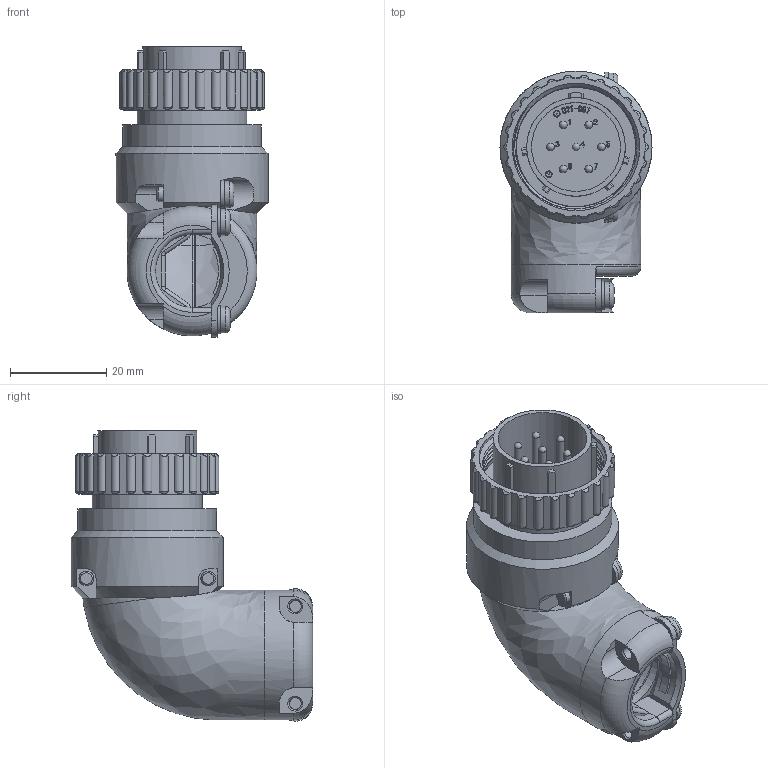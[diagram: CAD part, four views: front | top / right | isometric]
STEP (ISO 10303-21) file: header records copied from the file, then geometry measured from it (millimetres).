
FILE_DESCRIPTION (( 'STEP AP203' ), '1' );
FILE_NAME ('JMLP2107MM-D.STEP', '2021-07-07T03:59:40', ( '' ), ( '' ), 'SwSTEP 2.0', 'SolidWorks 2018', '' );
FILE_SCHEMA (( 'CONFIG_CONTROL_DESIGN' ));
Length unit declared in the file: millimetre
Products named in the file (1): JMLP2107MM-D
Bounding box: 31.6 x 50.2 x 60.33 mm (x, y, z)
Volume: 18930.7 mm3; surface area: 16878.2 mm2
Topology: 1 solids, 1 shells, 988 faces, 2719 edges, 1783 vertices
Faces by surface type: plane 436, bspline 290, cylinder 182, cone 54, torus 19, sphere 7
Full cylindrical faces by diameter (mm): 1.2 x3, 1.4 x3, 1.6 x7, 1.7 x7, 2.4 x7, 2.5 x2, 3 x2, 5.5 x4, 15.2 x1, 18.1 x1, 18.5 x1, 20.1 x1, 20.5 x1, 22.7 x1, 22.8 x1, 24.8 x1, 26.1 x1, 26.2 x1, 26.5 x1, 27 x1, 28.5 x1, 28.8 x1, 31.6 x1
Entity records: 43784 total; most frequent: CARTESIAN_POINT 21502, ORIENTED_EDGE 5152, DIRECTION 3566, EDGE_CURVE 2576, VERTEX_POINT 1732, VECTOR 1282, LINE 1282, AXIS2_PLACEMENT_3D 1142
